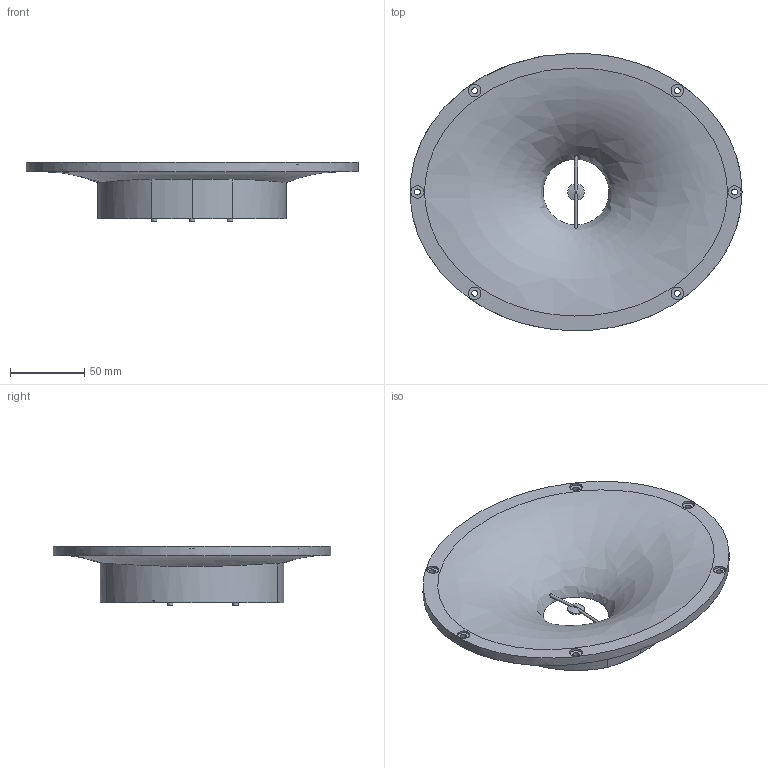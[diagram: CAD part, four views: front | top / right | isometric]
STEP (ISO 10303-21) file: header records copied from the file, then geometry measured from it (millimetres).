
FILE_DESCRIPTION(/* description */ (''),/* implementation_level */ '2;1');
FILE_NAME(/* name */ '8x1.5 vA 82 TW29 ps.step',/* time_stamp */ '2023-12-29T08:10:07-07:00',/* author */ (''),/* organization */ (''),/* preprocessor_version */ 'ST-DEVELOPER v20',/* originating_system */ 'Autodesk Translation Framework v12.14.0.127',/* authorisation */ '');
FILE_SCHEMA (('AUTOMOTIVE_DESIGN { 1 0 10303 214 3 1 1 }'));
Length unit declared in the file: inch
Products named in the file (3): 8x1.5 vA 82 TW29; modified 6 v2; Component9
Assembly tree (2 placements, depth 3):
  8x1.5 vA 82 TW29
    modified 6 v2
      Component9
Bounding box: 223.01 x 186.44 x 40.13 mm (x, y, z)
Volume: 382398.4 mm3; surface area: 81453.1 mm2
Topology: 2 solids, 2 shells, 286 faces, 768 edges, 516 vertices
Faces by surface type: bspline 150, plane 110, cylinder 23, cone 3
Full cylindrical faces by diameter (mm): 2.032 x2, 2.794 x2, 3.81 x3, 4.064 x6, 8.382 x6, 11.176 x1
Entity records: 16782 total; most frequent: CARTESIAN_POINT 10552, ORIENTED_EDGE 1534, EDGE_CURVE 767, DIRECTION 763, VERTEX_POINT 516, LINE 399, VECTOR 399, EDGE_LOOP 331
